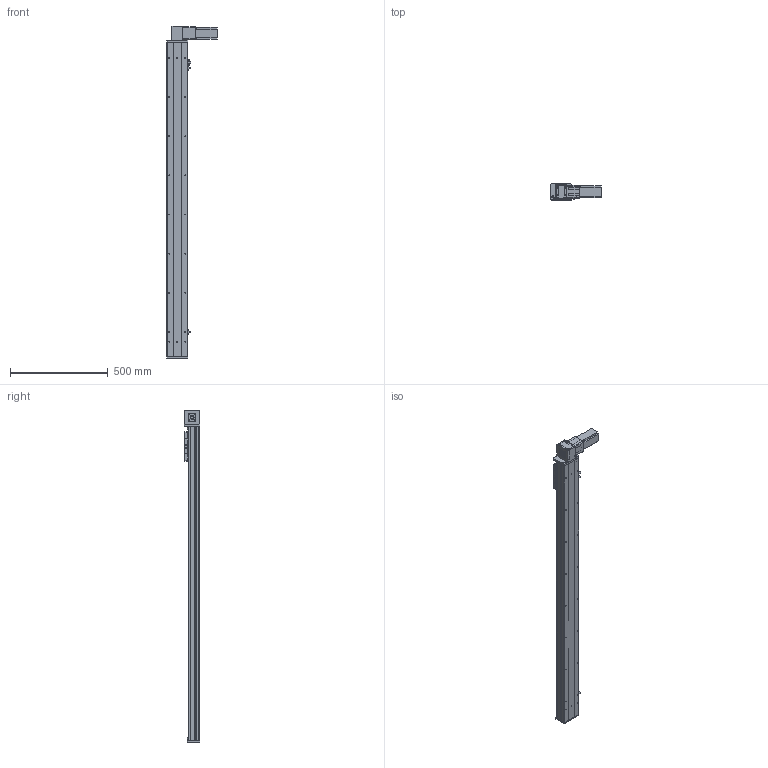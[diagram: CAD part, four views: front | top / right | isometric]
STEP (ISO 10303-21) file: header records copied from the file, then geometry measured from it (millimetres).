
FILE_DESCRIPTION (( 'STEP AP203' ), '1' );
FILE_NAME ('Y10CB-D90-S1350-BD-P400W.STEP', '2020-02-17T02:40:31', ( '微软用户' ), ( '微软中国' ), 'SwSTEP 2.0', 'SolidWorks 2017', '' );
FILE_SCHEMA (( 'CONFIG_CONTROL_DESIGN' ));
Length unit declared in the file: millimetre
Products named in the file (16): Y10CB- 掛极耜裔啣-毀---; Y10C---詩湍揤啣; 0CB-雄赽釱---; 10CB9-掛极; 0Cb-俋欶---; 10CB-耜裔; Y10B-々湍喘謫眊楊擘啣--; Y135C-陔俋离換覜結え-; san松下电机400不带刹车----; Y100-135俋离換覜ん--; 0B-源倛裔啣; Y10B--々湍喘謫眊--666; 0B-埴倛裔啣; 0B-薊粣ん眊; 10CB-詩湍-; Y10CB-D90-S1350-BD-P400W
Assembly tree (19 placements, depth 2):
  Y10CB-D90-S1350-BD-P400W
    0CB-雄赽釱---
    0Cb-俋欶---
    Y10B-々湍喘謫眊楊擘啣--
    san松下电机400不带刹车----
    0B-源倛裔啣
    0B-埴倛裔啣
    10CB-詩湍-
    Y10CB- 掛极耜裔啣-毀---  x2
    Y10C---詩湍揤啣  x2
    10CB9-掛极
    10CB-耜裔
    Y135C-陔俋离換覜結え-
    Y100-135俋离換覜ん--  x3
    Y10B--々湍喘謫眊--666
    0B-薊粣ん眊
Bounding box: 258 x 80.5 x 1696 mm (x, y, z)
Volume: 3746855.4 mm3; surface area: 1676041.6 mm2
Topology: 19 solids, 19 shells, 924 faces, 2462 edges, 1604 vertices
Faces by surface type: cylinder 460, plane 440, cone 24
Entity records: 28569 total; most frequent: CARTESIAN_POINT 5200, DIRECTION 4593, ORIENTED_EDGE 4394, EDGE_CURVE 2197, AXIS2_PLACEMENT_3D 1647, VERTEX_POINT 1430, VECTOR 1299, LINE 1299
